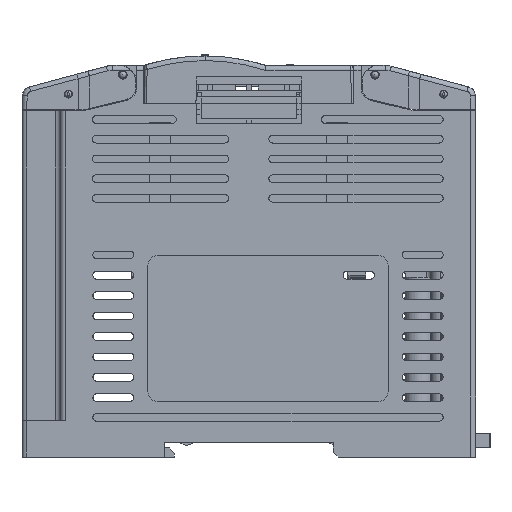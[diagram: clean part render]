
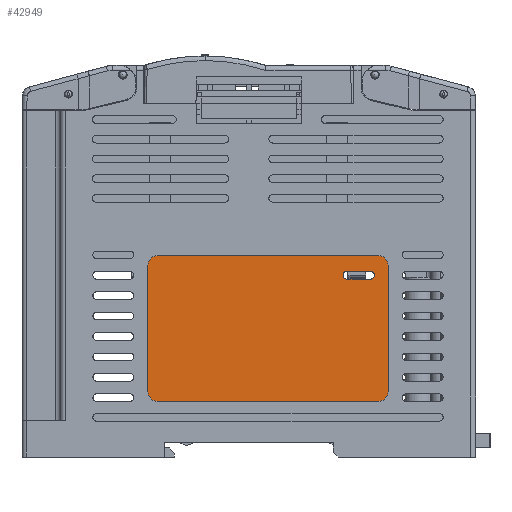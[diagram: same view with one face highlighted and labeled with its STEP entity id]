
A CAD part, left-side view. The second image highlights one B-rep face of the part: STEP entity #42949.
In plain terms, the highlighted planar face has unit normal (-1, 0, 0).
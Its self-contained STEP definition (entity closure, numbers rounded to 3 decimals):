
#594 = CARTESIAN_POINT ( 'NONE',  ( -87.999, -29.154, -39.834 ) ) ;
#811 = CIRCLE ( 'NONE', #32131, 2. ) ;
#959 = CARTESIAN_POINT ( 'NONE',  ( -87.999, -27.154, -42.733 ) ) ;
#988 = EDGE_CURVE ( 'NONE', #17742, #24052, #6355, .T. ) ;
#1078 = CARTESIAN_POINT ( 'NONE',  ( -87.999, -27.154, -37.834 ) ) ;
#1338 = CARTESIAN_POINT ( 'NONE',  ( -87.999, -20.534, -41.933 ) ) ;
#1359 = VERTEX_POINT ( 'NONE', #23341 ) ;
#2541 = VERTEX_POINT ( 'NONE', #35775 ) ;
#3815 = VECTOR ( 'NONE', #51992, 1000. ) ;
#3897 = VERTEX_POINT ( 'NONE', #1078 ) ;
#4924 = CARTESIAN_POINT ( 'NONE',  ( -87.999, 19.146, -68.334 ) ) ;
#5712 = LINE ( 'NONE', #27409, #19986 ) ;
#5770 = CARTESIAN_POINT ( 'NONE',  ( -87.999, 21.146, -66.334 ) ) ;
#6232 = LINE ( 'NONE', #959, #47399 ) ;
#6270 = ORIENTED_EDGE ( 'NONE', *, *, #12233, .F. ) ;
#6332 = CIRCLE ( 'NONE', #47740, 2. ) ;
#6355 = LINE ( 'NONE', #11259, #10515 ) ;
#6870 = DIRECTION ( 'NONE',  ( 0., -1., 0. ) ) ;
#7053 = EDGE_CURVE ( 'NONE', #28577, #1359, #6232, .T. ) ;
#7384 = CARTESIAN_POINT ( 'NONE',  ( -87.999, -27.154, -39.834 ) ) ;
#7429 = ORIENTED_EDGE ( 'NONE', *, *, #13149, .F. ) ;
#7521 = CARTESIAN_POINT ( 'NONE',  ( -87.999, -20.534, -41.133 ) ) ;
#7666 = DIRECTION ( 'NONE',  ( 0., 0., 1. ) ) ;
#7992 = DIRECTION ( 'NONE',  ( 1., 0., 0. ) ) ;
#9087 = CARTESIAN_POINT ( 'NONE',  ( -87.999, -27.154, -66.334 ) ) ;
#9525 = ORIENTED_EDGE ( 'NONE', *, *, #7053, .T. ) ;
#10515 = VECTOR ( 'NONE', #49098, 1000. ) ;
#11259 = CARTESIAN_POINT ( 'NONE',  ( -87.999, 21.146, -66.334 ) ) ;
#12233 = EDGE_CURVE ( 'NONE', #3897, #50172, #6332, .T. ) ;
#13084 = VERTEX_POINT ( 'NONE', #22979 ) ;
#13149 = EDGE_CURVE ( 'NONE', #24052, #13084, #811, .T. ) ;
#13211 = ORIENTED_EDGE ( 'NONE', *, *, #40637, .T. ) ;
#14650 = CIRCLE ( 'NONE', #52710, 0.8 ) ;
#15683 = DIRECTION ( 'NONE',  ( 1., 0., 0. ) ) ;
#15701 = FACE_BOUND ( 'NONE', #46301, .T. ) ;
#17407 = EDGE_CURVE ( 'NONE', #53722, #17742, #60390, .T. ) ;
#17742 = VERTEX_POINT ( 'NONE', #5770 ) ;
#18227 = AXIS2_PLACEMENT_3D ( 'NONE', #50753, #23421, #7666 ) ;
#19805 = CARTESIAN_POINT ( 'NONE',  ( -87.999, -27.154, -68.334 ) ) ;
#19864 = AXIS2_PLACEMENT_3D ( 'NONE', #9087, #63742, #25198 ) ;
#19986 = VECTOR ( 'NONE', #64249, 1000. ) ;
#20447 = CARTESIAN_POINT ( 'NONE',  ( -87.999, -27.154, -41.133 ) ) ;
#21937 = EDGE_CURVE ( 'NONE', #1359, #50640, #14650, .T. ) ;
#22707 = DIRECTION ( 'NONE',  ( 0., 0., 1. ) ) ;
#22979 = CARTESIAN_POINT ( 'NONE',  ( -87.999, 19.146, -37.834 ) ) ;
#23144 = DIRECTION ( 'NONE',  ( 1., 0., 0. ) ) ;
#23341 = CARTESIAN_POINT ( 'NONE',  ( -87.999, -20.534, -42.733 ) ) ;
#23421 = DIRECTION ( 'NONE',  ( 1., 0., 0. ) ) ;
#24052 = VERTEX_POINT ( 'NONE', #39244 ) ;
#25198 = DIRECTION ( 'NONE',  ( 0., -1., 0. ) ) ;
#26751 = AXIS2_PLACEMENT_3D ( 'NONE', #48249, #15683, #41960 ) ;
#27409 = CARTESIAN_POINT ( 'NONE',  ( -87.999, -27.154, -68.334 ) ) ;
#27595 = LINE ( 'NONE', #27946, #56769 ) ;
#27885 = DIRECTION ( 'NONE',  ( 1., 0., 0. ) ) ;
#27946 = CARTESIAN_POINT ( 'NONE',  ( -87.999, -29.154, -39.834 ) ) ;
#28330 = ORIENTED_EDGE ( 'NONE', *, *, #988, .F. ) ;
#28577 = VERTEX_POINT ( 'NONE', #51684 ) ;
#31707 = AXIS2_PLACEMENT_3D ( 'NONE', #51818, #40955, #63718 ) ;
#32131 = AXIS2_PLACEMENT_3D ( 'NONE', #65415, #27885, #6870 ) ;
#32313 = VERTEX_POINT ( 'NONE', #51335 ) ;
#33340 = ORIENTED_EDGE ( 'NONE', *, *, #56248, .F. ) ;
#34397 = EDGE_CURVE ( 'NONE', #37125, #53722, #5712, .T. ) ;
#35707 = PLANE ( 'NONE',  #31707 ) ;
#35775 = CARTESIAN_POINT ( 'NONE',  ( -87.999, -25.474, -41.133 ) ) ;
#37125 = VERTEX_POINT ( 'NONE', #19805 ) ;
#38522 = ORIENTED_EDGE ( 'NONE', *, *, #17407, .F. ) ;
#39244 = CARTESIAN_POINT ( 'NONE',  ( -87.999, 21.146, -39.834 ) ) ;
#40637 = EDGE_CURVE ( 'NONE', #2541, #28577, #52887, .T. ) ;
#40955 = DIRECTION ( 'NONE',  ( 1., 0., 0. ) ) ;
#41960 = DIRECTION ( 'NONE',  ( 0., -1., 0. ) ) ;
#42949 = ADVANCED_FACE ( 'NONE', ( #15701, #47237 ), #35707, .F. ) ;
#43611 = EDGE_CURVE ( 'NONE', #50640, #2541, #62858, .T. ) ;
#44155 = DIRECTION ( 'NONE',  ( 0., -1., 0. ) ) ;
#46301 = EDGE_LOOP ( 'NONE', ( #13211, #9525, #61076, #60950 ) ) ;
#47237 = FACE_OUTER_BOUND ( 'NONE', #48197, .T. ) ;
#47399 = VECTOR ( 'NONE', #54927, 1000. ) ;
#47627 = ORIENTED_EDGE ( 'NONE', *, *, #34397, .F. ) ;
#47740 = AXIS2_PLACEMENT_3D ( 'NONE', #7384, #23144, #44155 ) ;
#48197 = EDGE_LOOP ( 'NONE', ( #33340, #6270, #63988, #7429, #28330, #38522, #47627, #57722 ) ) ;
#48249 = CARTESIAN_POINT ( 'NONE',  ( -87.999, 19.146, -66.334 ) ) ;
#48915 = CIRCLE ( 'NONE', #19864, 2. ) ;
#48917 = VECTOR ( 'NONE', #64489, 1000. ) ;
#49098 = DIRECTION ( 'NONE',  ( 0., 0., 1. ) ) ;
#50042 = DIRECTION ( 'NONE',  ( 0., 0., -1. ) ) ;
#50172 = VERTEX_POINT ( 'NONE', #594 ) ;
#50640 = VERTEX_POINT ( 'NONE', #7521 ) ;
#50753 = CARTESIAN_POINT ( 'NONE',  ( -87.999, -25.474, -41.933 ) ) ;
#51335 = CARTESIAN_POINT ( 'NONE',  ( -87.999, -29.154, -66.334 ) ) ;
#51684 = CARTESIAN_POINT ( 'NONE',  ( -87.999, -25.474, -42.733 ) ) ;
#51818 = CARTESIAN_POINT ( 'NONE',  ( -87.999, -27.154, -39.834 ) ) ;
#51992 = DIRECTION ( 'NONE',  ( 0., -1., 0. ) ) ;
#52710 = AXIS2_PLACEMENT_3D ( 'NONE', #1338, #7992, #22707 ) ;
#52887 = CIRCLE ( 'NONE', #18227, 0.8 ) ;
#53722 = VERTEX_POINT ( 'NONE', #4924 ) ;
#54927 = DIRECTION ( 'NONE',  ( 0., 1., 0. ) ) ;
#55957 = EDGE_CURVE ( 'NONE', #32313, #37125, #48915, .T. ) ;
#56248 = EDGE_CURVE ( 'NONE', #50172, #32313, #27595, .T. ) ;
#56769 = VECTOR ( 'NONE', #50042, 1000. ) ;
#57722 = ORIENTED_EDGE ( 'NONE', *, *, #55957, .F. ) ;
#60390 = CIRCLE ( 'NONE', #26751, 2. ) ;
#60950 = ORIENTED_EDGE ( 'NONE', *, *, #43611, .T. ) ;
#61076 = ORIENTED_EDGE ( 'NONE', *, *, #21937, .T. ) ;
#62858 = LINE ( 'NONE', #20447, #3815 ) ;
#62916 = EDGE_CURVE ( 'NONE', #13084, #3897, #64833, .T. ) ;
#63718 = DIRECTION ( 'NONE',  ( 0., 1., 0. ) ) ;
#63742 = DIRECTION ( 'NONE',  ( 1., 0., 0. ) ) ;
#63988 = ORIENTED_EDGE ( 'NONE', *, *, #62916, .F. ) ;
#64249 = DIRECTION ( 'NONE',  ( 0., 1., 0. ) ) ;
#64489 = DIRECTION ( 'NONE',  ( 0., -1., 0. ) ) ;
#64833 = LINE ( 'NONE', #66843, #48917 ) ;
#65415 = CARTESIAN_POINT ( 'NONE',  ( -87.999, 19.146, -39.834 ) ) ;
#66843 = CARTESIAN_POINT ( 'NONE',  ( -87.999, 19.146, -37.834 ) ) ;
